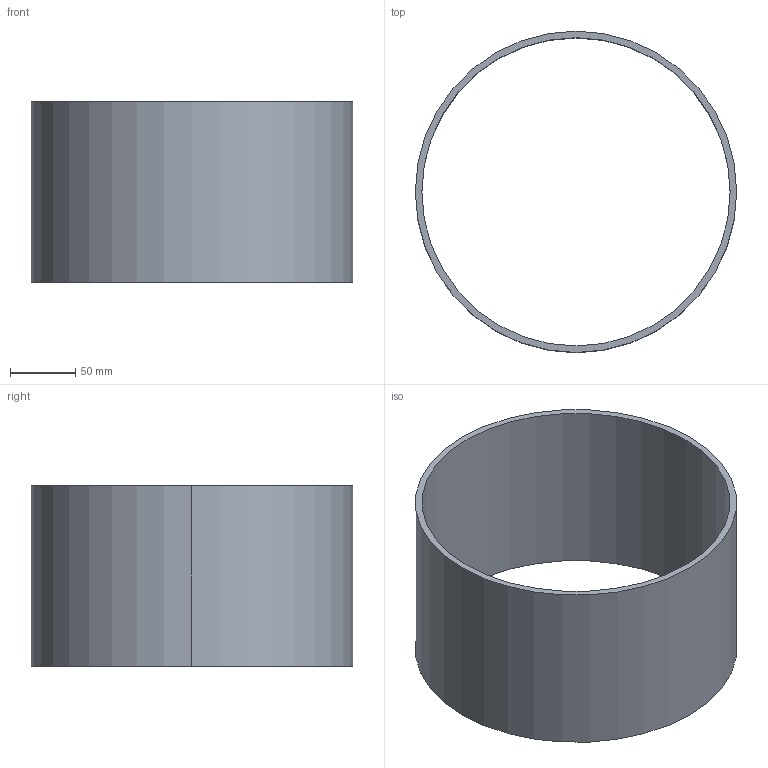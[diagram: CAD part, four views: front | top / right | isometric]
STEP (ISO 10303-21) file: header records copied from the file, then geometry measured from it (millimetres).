
FILE_DESCRIPTION(('CATIA V5 STEP Exchange'),'2;1');
FILE_NAME('C:\_Andres\UNIVERSIDAD\IQS\ASIGNATURAS\DAO\EXF\EXF-15161c\1original\Sánchez_Albiol_Ej07-tabla_v23.stp','2016-03-04T21:16:35+00:00',('none'),('none'),'CATIA Version 5 Release 20 SP 1 (IN-10)','CATIA V5 STEP AP203','none');
FILE_SCHEMA(('CONFIG_CONTROL_DESIGN'));
Length unit declared in the file: millimetre
Products named in the file (1): Sánchez_Albiol_Ej07-tabla_v23
Bounding box: 246 x 246 x 138 mm (x, y, z)
Volume: 522415.4 mm3; surface area: 216537.4 mm2
Topology: 1 solids, 1 shells, 6 faces, 13 edges, 10 vertices
Faces by surface type: cylinder 4, plane 2
Entity records: 208 total; most frequent: CARTESIAN_POINT 29, ORIENTED_EDGE 24, DIRECTION 23, AXIS2_PLACEMENT_3D 14, EDGE_CURVE 12, CIRCLE 8, EDGE_LOOP 8, VERTEX_POINT 8
